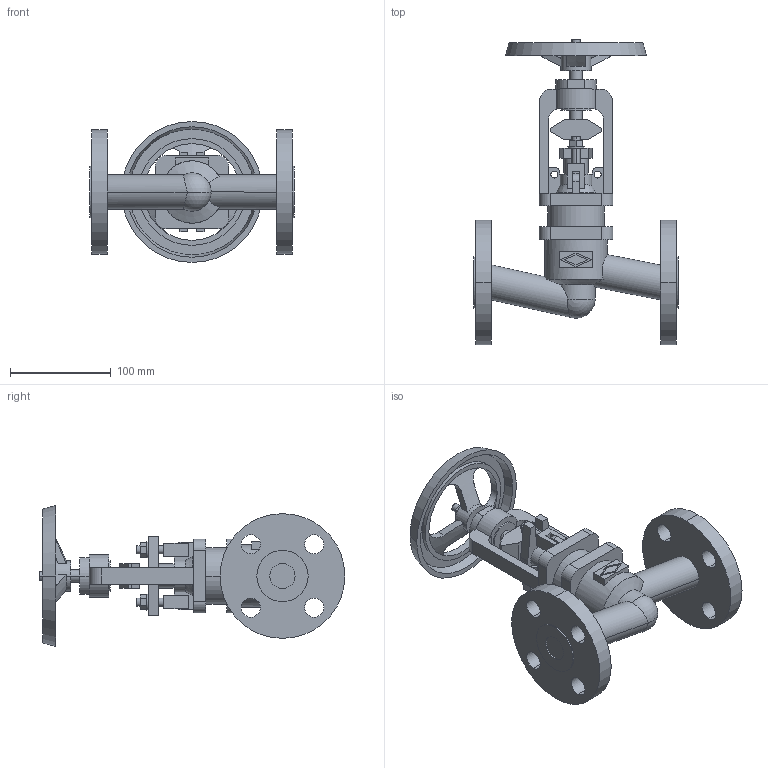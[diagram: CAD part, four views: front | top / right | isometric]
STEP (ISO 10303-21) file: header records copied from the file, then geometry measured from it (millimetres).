
FILE_DESCRIPTION(('OneSpaceDesigner STEP Export'),'2;1');
FILE_NAME('c000004213.stp','2010-04-30T 9:44:55',(''),(''),'OneSpace Designer STEP processor for AP214 (Solid Model)','OneSpace Modeling 15.50B 03-Nov-2007 (C) CoCreate Software GmbH','');
FILE_SCHEMA(('AUTOMOTIVE_DESIGN { 1 0 10303 214 1 1 1 1 }'));
Length unit declared in the file: millimetre
Products named in the file (1): 1
Bounding box: 203 x 303.87 x 140 mm (x, y, z)
Volume: 1050894 mm3; surface area: 185216.6 mm2
Topology: 1 solids, 1 shells, 283 faces, 739 edges, 484 vertices
Faces by surface type: plane 148, cylinder 109, cone 20, torus 4, sphere 2
Entity records: 10862 total; most frequent: CARTESIAN_POINT 1948, ORIENTED_EDGE 1474, DIRECTION 1241, EDGE_CURVE 737, VERTEX_POINT 484, VECTOR 433, LINE 433, AXIS2_PLACEMENT_3D 404
